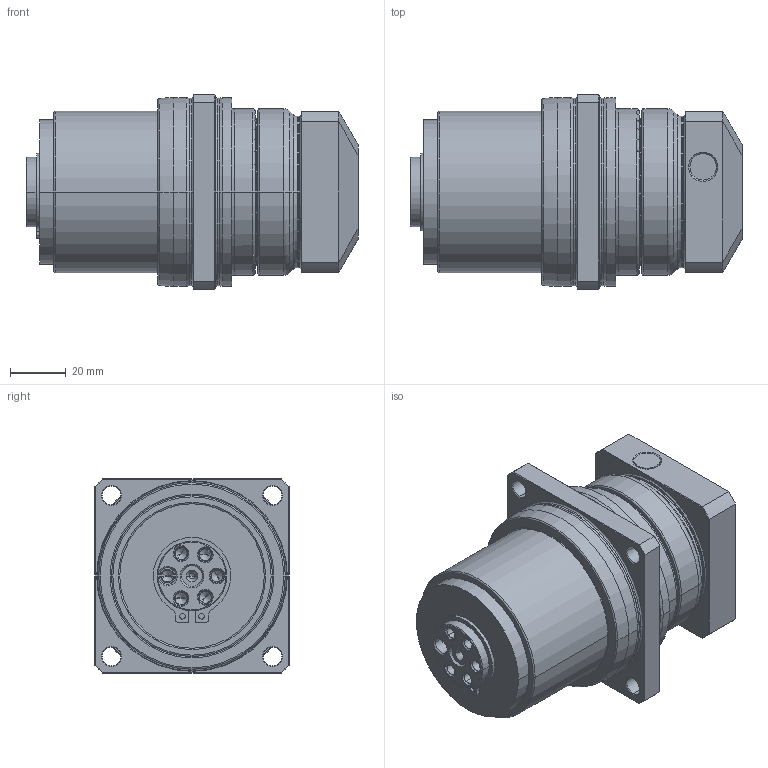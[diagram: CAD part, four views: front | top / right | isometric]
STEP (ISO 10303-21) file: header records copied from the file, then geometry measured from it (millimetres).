
FILE_DESCRIPTION((''),'2;1');
FILE_NAME('PL070_2ST_8-P0411100101_ASM','2016-06-04T',('d00435'),(''),'PRO/ENGINEER BY PARAMETRIC TECHNOLOGY CORPORATION, 2008410','PRO/ENGINEER BY PARAMETRIC TECHNOLOGY CORPORATION, 2008410','');
FILE_SCHEMA(('CONFIG_CONTROL_DESIGN'));
Length unit declared in the file: millimetre
Products named in the file (10): P0272200001; P1356200001; P0366200001; P0274200001; P1324200001; 22802000015; P0941200001; P0503100005; P0411100101; PL070_2ST_8-P0411100101_ASM
Assembly tree (9 placements, depth 2):
  PL070_2ST_8-P0411100101_ASM
    P0272200001
    P1356200001
    P0366200001
    P0274200001
    P1324200001
    22802000015
    P0941200001
    P0503100005
    P0411100101
Bounding box: 119.5 x 70 x 70 mm (x, y, z)
Volume: 291408.6 mm3; surface area: 85294.3 mm2
Topology: 9 solids, 24 shells, 534 faces, 1235 edges, 731 vertices
Faces by surface type: cylinder 166, cone 164, plane 100, torus 90, bspline 14
Entity records: 20131 total; most frequent: CARTESIAN_POINT 7675, DIRECTION 2830, ORIENTED_EDGE 2350, AXIS2_PLACEMENT_3D 1207, EDGE_CURVE 1205, VERTEX_POINT 731, CIRCLE 660, EDGE_LOOP 608
